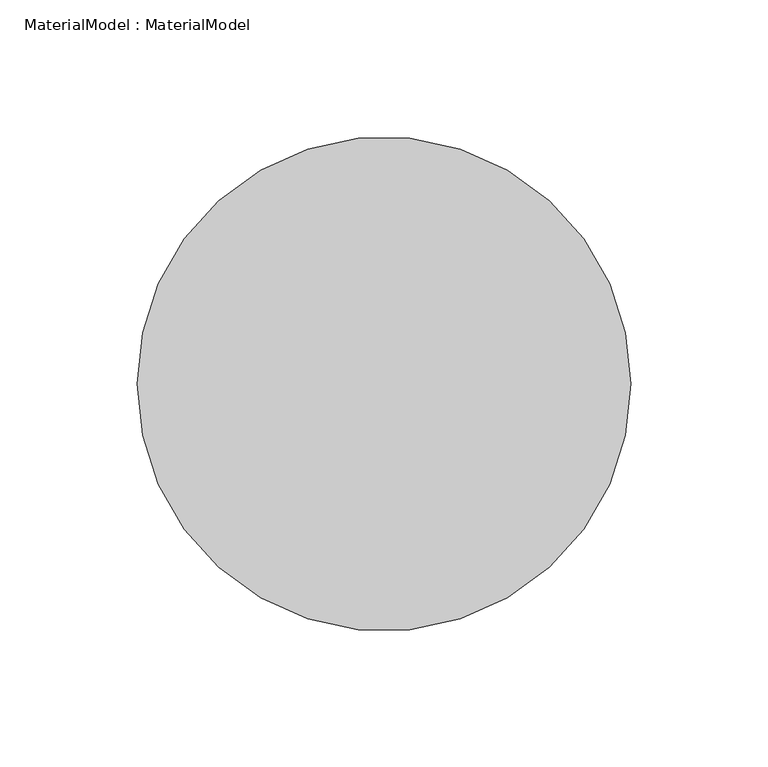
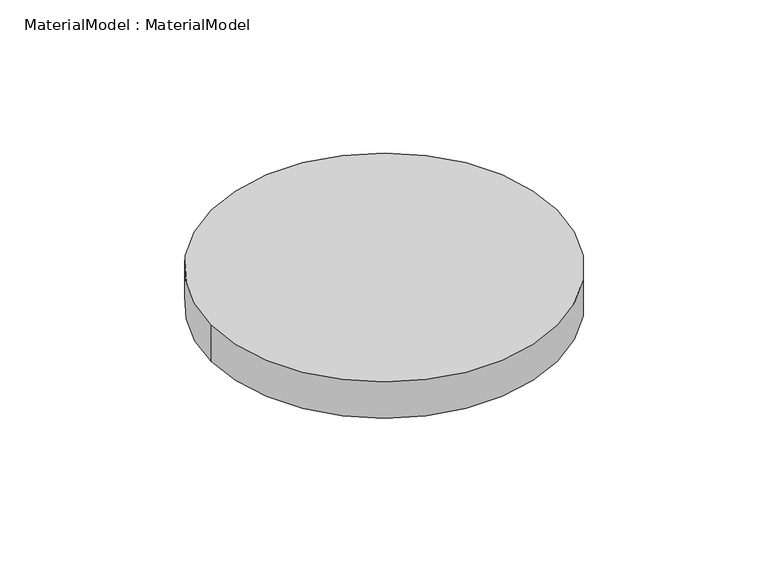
"""IFC4 building model written with IfcOpenShell, lengths in millimetres: proxy geometry, MaterialModel : MaterialModel."""

from ifc_helpers import new_model, si_unit, point, origin, origin_with_axes, origin_2d, place, context, project, spatial, circle_curve, trimmed, segment, composite_curve, outline, extrude, source, transform, mapped, element, save


def materialmodel_materialmodel_ff088fdc(model_context):
    return source(origin(), model_context, "Body", "SweptSolid", [
        extrude(outline(composite_curve([segment(trimmed(circle_curve(origin_2d(), 90.0), [point((-90.0, 0.0))], [point((90.0, 0.0))], False, "CARTESIAN"), True, "CONTINUOUS"), segment(trimmed(circle_curve(origin_2d(), 90.0), [point((90.0, 0.0))], [point((-90.0, 0.0))], False, "CARTESIAN"), True, "CONTINUOUS")], self_intersect=False)), origin_with_axes(), (0.0, 0.0, 1.0), 20.0),
    ])


if __name__ == "__main__":
    model = new_model("IFC4")
    model_context = context("Model", 3, world=origin())
    ifc_project = project(units=[si_unit("LENGTHUNIT", "METRE", prefix="MILLI")], contexts=[model_context])
    site = spatial("IfcSite", under=ifc_project)
    building = spatial("IfcBuilding", under=site)
    placement = place(None, origin())
    materialmodel_materialmodel_shape = materialmodel_materialmodel_ff088fdc(model_context)
    element("IfcBuildingElementProxy", 1, Name="MaterialModel : MaterialModel", ObjectType="MaterialModel : MaterialModel", at=placement, inside=building, context=model_context, shape_type="MappedRepresentation", body=[
        mapped(materialmodel_materialmodel_shape, transform((0.0, 0.0, 0.0), x_axis=(1.0, 0.0, 0.0), y_axis=(0.0, 1.0, 0.0), z_axis=(0.0, 0.0, 1.0))),
    ])
    save(model, "model.ifc")
